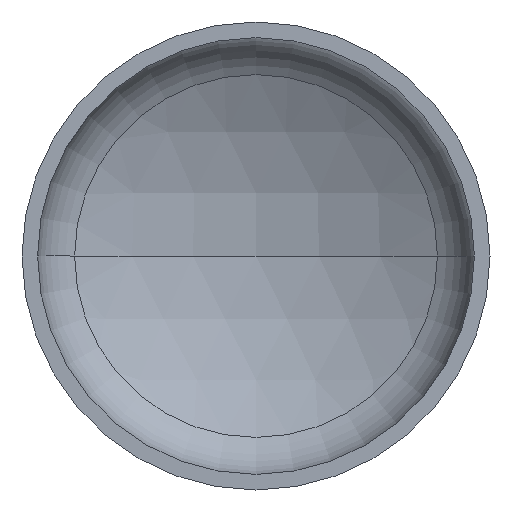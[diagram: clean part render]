
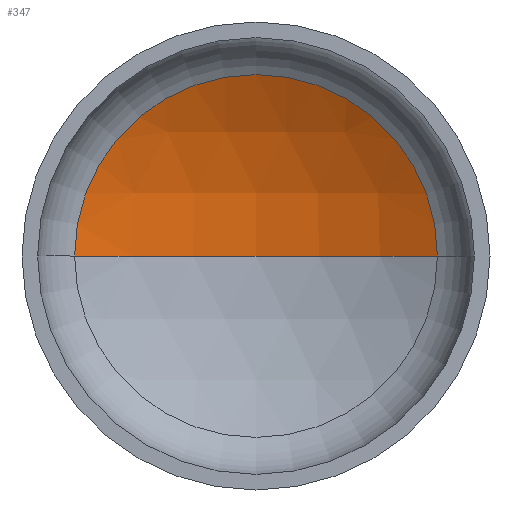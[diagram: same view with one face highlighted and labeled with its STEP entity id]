
A CAD part, front view. The second image highlights one B-rep face of the part: STEP entity #347.
In plain terms, the highlighted spherical face has radius 480 mm.
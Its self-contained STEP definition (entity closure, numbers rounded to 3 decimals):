
#7 = EDGE_LOOP ( 'NONE', ( #112, #161, #103 ) ) ;
#25 = AXIS2_PLACEMENT_3D ( 'NONE', #357, #178, #376 ) ;
#33 = VERTEX_POINT ( 'NONE', #299 ) ;
#40 = AXIS2_PLACEMENT_3D ( 'NONE', #226, #223, #224 ) ;
#41 = AXIS2_PLACEMENT_3D ( 'NONE', #318, #317, #316 ) ;
#43 = AXIS2_PLACEMENT_3D ( 'NONE', #312, #311, #203 ) ;
#70 = EDGE_CURVE ( 'NONE', #33, #143, #222, .T. ) ;
#73 = EDGE_CURVE ( 'NONE', #135, #33, #118, .T. ) ;
#78 = EDGE_CURVE ( 'NONE', #135, #143, #395, .T. ) ;
#103 = ORIENTED_EDGE ( 'NONE', *, *, #70, .T. ) ;
#112 = ORIENTED_EDGE ( 'NONE', *, *, #78, .F. ) ;
#118 = CIRCLE ( 'NONE', #41, 480. ) ;
#135 = VERTEX_POINT ( 'NONE', #232 ) ;
#143 = VERTEX_POINT ( 'NONE', #268 ) ;
#153 = FACE_OUTER_BOUND ( 'NONE', #7, .T. ) ;
#161 = ORIENTED_EDGE ( 'NONE', *, *, #73, .T. ) ;
#178 = DIRECTION ( 'NONE',  ( 0., 0., -1. ) ) ;
#203 = DIRECTION ( 'NONE',  ( 1., 0., 0. ) ) ;
#222 = CIRCLE ( 'NONE', #43, 232.577 ) ;
#223 = DIRECTION ( 'NONE',  ( 0., 0., 1. ) ) ;
#224 = DIRECTION ( 'NONE',  ( 1., 0., 0. ) ) ;
#226 = CARTESIAN_POINT ( 'NONE',  ( 0., -279.411, 0. ) ) ;
#232 = CARTESIAN_POINT ( 'NONE',  ( 0., 200.589, 0. ) ) ;
#268 = CARTESIAN_POINT ( 'NONE',  ( -232.577, 140.479, 0. ) ) ;
#299 = CARTESIAN_POINT ( 'NONE',  ( 232.577, 140.479, 0. ) ) ;
#305 = SPHERICAL_SURFACE ( 'NONE', #25, 480. ) ;
#311 = DIRECTION ( 'NONE',  ( 0., -1., 0. ) ) ;
#312 = CARTESIAN_POINT ( 'NONE',  ( 0., 140.479, 0. ) ) ;
#316 = DIRECTION ( 'NONE',  ( -1., 0., 0. ) ) ;
#317 = DIRECTION ( 'NONE',  ( 0., 0., -1. ) ) ;
#318 = CARTESIAN_POINT ( 'NONE',  ( 0., -279.411, 0. ) ) ;
#347 = ADVANCED_FACE ( 'NONE', ( #153 ), #305, .F. ) ;
#357 = CARTESIAN_POINT ( 'NONE',  ( 0., -279.411, 0. ) ) ;
#376 = DIRECTION ( 'NONE',  ( -1., 0., 0. ) ) ;
#395 = CIRCLE ( 'NONE', #40, 480. ) ;
